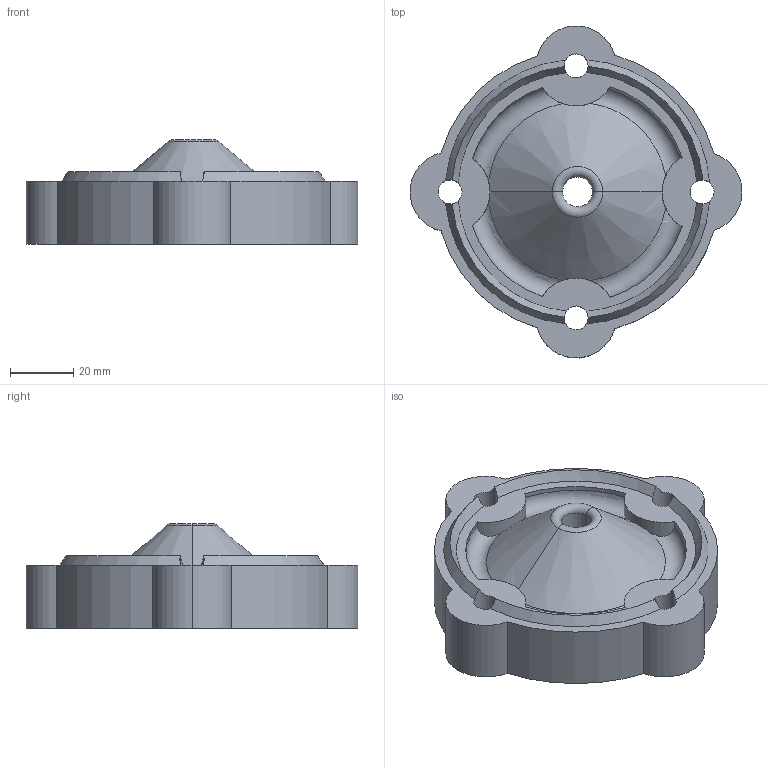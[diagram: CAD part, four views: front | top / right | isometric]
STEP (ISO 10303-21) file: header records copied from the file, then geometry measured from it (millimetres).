
FILE_DESCRIPTION (( 'STEP AP214' ), '1' );
FILE_NAME ('Baffle.STEP', '2020-09-22T17:14:07', ( '' ), ( '' ), 'SwSTEP 2.0', 'SolidWorks 2019', '' );
FILE_SCHEMA (( 'AUTOMOTIVE_DESIGN' ));
Length unit declared in the file: millimetre
Products named in the file (1): Baffle
Bounding box: 105.35 x 105.33 x 33.09 mm (x, y, z)
Volume: 102005.6 mm3; surface area: 26485.4 mm2
Topology: 1 solids, 1 shells, 63 faces, 193 edges, 126 vertices
Faces by surface type: cylinder 33, cone 20, torus 6, plane 4
Entity records: 2739 total; most frequent: CARTESIAN_POINT 985, ORIENTED_EDGE 386, DIRECTION 361, EDGE_CURVE 193, AXIS2_PLACEMENT_3D 164, VERTEX_POINT 126, CIRCLE 100, EDGE_LOOP 67
